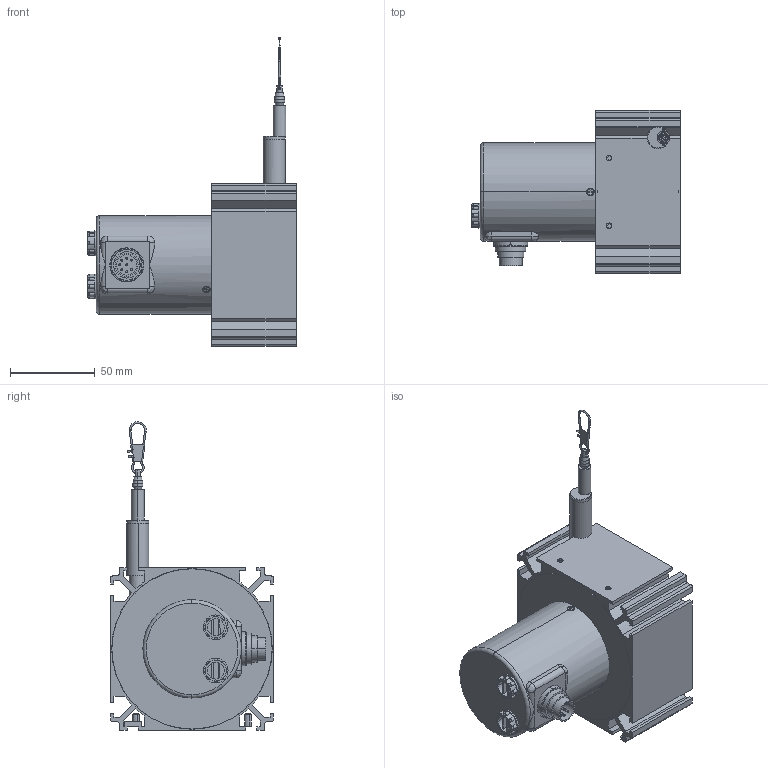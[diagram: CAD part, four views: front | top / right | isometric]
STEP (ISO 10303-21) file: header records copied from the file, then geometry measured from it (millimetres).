
FILE_DESCRIPTION((''),'2;1');
FILE_NAME('','2007-03-21T',(''),(''),'PRO/ENGINEER BY PARAMETRIC TECHNOLOGY CORPORATION, 2003250','PRO/ENGINEER BY PARAMETRIC TECHNOLOGY CORPORATION, 2003250','');
FILE_SCHEMA(('CONFIG_CONTROL_DESIGN'));
Length unit declared in the file: millimetre
Bounding box: 123 x 96 x 181.99 mm (x, y, z)
Volume: 223018.6 mm3; surface area: 112260.3 mm2
Topology: 1 solids, 8 shells, 750 faces, 1983 edges, 1284 vertices
Faces by surface type: plane 311, cylinder 293, cone 76, torus 38, bspline 30, sphere 2
Entity records: 25068 total; most frequent: CARTESIAN_POINT 6229, DIRECTION 4057, ORIENTED_EDGE 3886, EDGE_CURVE 1943, AXIS2_PLACEMENT_3D 1557, VERTEX_POINT 1284, VECTOR 943, LINE 943
